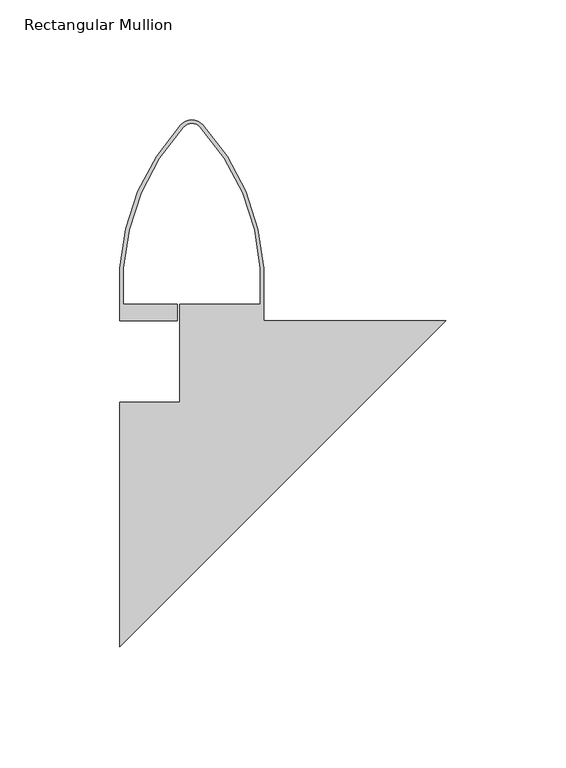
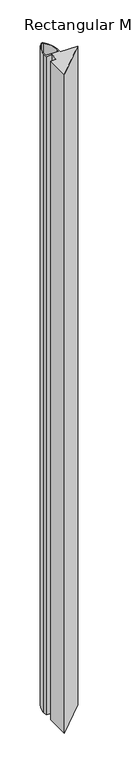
"""IFC4 building model written with IfcOpenShell, lengths in millimetres: member geometry, Rectangular Mullion : FMO053...FM60-80_L."""

from ifc_helpers import new_model, si_unit, point, frame, frame_2d, origin, place, context, project, spatial, polyline, circle_curve, trimmed, segment, composite_curve, outline, extrude, source, transform, mapped, element, save


def rectangular_mullion_30acf88c(model_context):
    return source(origin(), model_context, "Body", "SweptSolid", [
        extrude(outline(composite_curve([segment(polyline([(-134.5454068, 38.7133183), (-134.5454068, 23.6476589), (-111.9712064, 23.6476589), (-111.9712064, 16.8), (-135.9454068, 16.8), (-135.9454068, 38.7133183)]), True, "CONTINUOUS"), segment(trimmed(circle_curve(frame_2d((-40.109263, 33.378115)), 95.9845344), [point((-135.9454068, 38.7133183))], [point((-110.4808908, 98.6534155))], False, "CARTESIAN"), True, "CONTINUOUS"), segment(trimmed(circle_curve(frame_2d((-105.9346796, 94.4785736)), 6.1723043), [point((-110.4808908, 98.6534155))], [point((-101.3884685, 98.6534155))], False, "CARTESIAN"), True, "CONTINUOUS"), segment(trimmed(circle_curve(frame_2d((-173.0112482, 32.8813312)), 97.2408846), [point((-101.3884685, 98.6534155))], [point((-75.9454068, 38.7133183))], False, "CARTESIAN"), True, "CONTINUOUS"), segment(polyline([(-75.9454068, 38.7133183), (-75.9454068, 16.7743874), (0.0, 16.7743874), (-135.9712064, -119.196819), (-135.9712064, -17.2), (-110.9712064, -17.2), (-110.9712064, 23.6476589), (-77.3454068, 23.6476589), (-77.3454068, 38.7133183)]), True, "CONTINUOUS"), segment(trimmed(circle_curve(frame_2d((-173.1796864, 32.7890376)), 96.0172185), [point((-77.3454068, 38.7133183))], [point((-102.3460309, 97.6110979))], True, "CARTESIAN"), True, "CONTINUOUS"), segment(trimmed(circle_curve(frame_2d((-105.9454068, 94.3171981)), 4.8790657), [point((-102.3460309, 97.6110979))], [point((-109.5447827, 97.6110979))], True, "CARTESIAN"), True, "CONTINUOUS"), segment(trimmed(circle_curve(frame_2d((-37.9972538, 32.4860163)), 96.7487733), [point((-109.5447827, 97.6110979))], [point((-134.5454068, 38.7133183))], True, "CARTESIAN"), True, "CONTINUOUS")], self_intersect=False)), frame((0.0, 0.0, -3000.0), z_axis=(0.0, 0.0, 1.0), x_axis=(1.0, 0.0, 0.0)), (0.0, 0.0, 1.0), 3000.0),
    ])


if __name__ == "__main__":
    model = new_model("IFC4")
    model_context = context("Model", 3, world=origin())
    ifc_project = project(units=[si_unit("LENGTHUNIT", "METRE", prefix="MILLI")], contexts=[model_context])
    site = spatial("IfcSite", under=ifc_project)
    building = spatial("IfcBuilding", under=site)
    placement = place(None, origin())
    rectangular_mullion_shape = rectangular_mullion_30acf88c(model_context)
    element("IfcMember", 1, ObjectType="Rectangular Mullion : FMO053...FM60-80_L", at=placement, inside=building, context=model_context, shape_type="MappedRepresentation", body=[
        mapped(rectangular_mullion_shape, transform((0.0, 0.0, 0.0), x_axis=(1.0, 0.0, 0.0), y_axis=(0.0, 1.0, 0.0), z_axis=(0.0, 0.0, 1.0))),
    ])
    save(model, "model.ifc")
